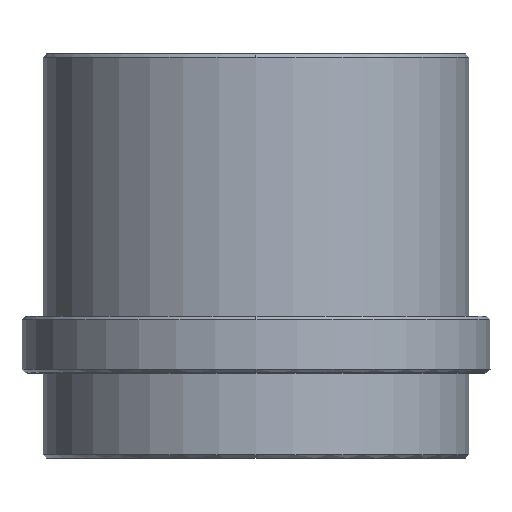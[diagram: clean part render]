
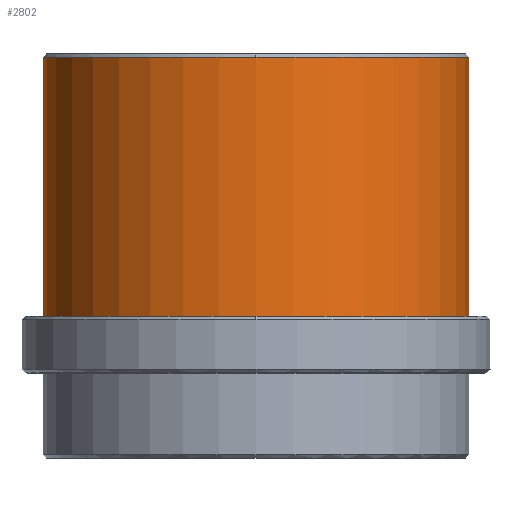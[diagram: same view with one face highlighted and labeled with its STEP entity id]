
A CAD part, front view. The second image highlights one B-rep face of the part: STEP entity #2802.
In plain terms, the highlighted cylindrical face has radius 30 mm (diameter 60 mm), a partial arc.
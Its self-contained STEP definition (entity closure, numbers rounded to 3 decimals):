
#2599=CARTESIAN_POINT('Vertex',(30.,0.,44.5)) ;
#2623=CARTESIAN_POINT('Vertex',(-30.,0.,44.5)) ;
#2647=CARTESIAN_POINT('Vertex',(0.,-30.,44.5)) ;
#2650=CARTESIAN_POINT('Axis2P3D Location',(0.,0.,44.5)) ;
#2667=CARTESIAN_POINT('Axis2P3D Location',(0.,0.,44.5)) ;
#2746=CARTESIAN_POINT('Line Origine',(30.,0.,-14.85)) ;
#2750=CARTESIAN_POINT('Vertex',(30.,0.,8.)) ;
#2769=CARTESIAN_POINT('Vertex',(-30.,0.,8.)) ;
#2772=CARTESIAN_POINT('Line Origine',(-30.,0.,-14.85)) ;
#2785=CARTESIAN_POINT('Axis2P3D Location',(0.,0.,-14.85)) ;
#2790=CARTESIAN_POINT('Axis2P3D Location',(0.,0.,8.)) ;
#2651=DIRECTION('Axis2P3D Direction',(0.,0.,-1.)) ;
#2668=DIRECTION('Axis2P3D Direction',(0.,0.,-1.)) ;
#2747=DIRECTION('Vector Direction',(0.,0.,1.)) ;
#2773=DIRECTION('Vector Direction',(0.,0.,1.)) ;
#2786=DIRECTION('Axis2P3D Direction',(0.,0.,1.)) ;
#2787=DIRECTION('Axis2P3D XDirection',(-1.,0.,0.)) ;
#2791=DIRECTION('Axis2P3D Direction',(0.,0.,1.)) ;
#2652=AXIS2_PLACEMENT_3D('Circle Axis2P3D',#2650,#2651,$) ;
#2669=AXIS2_PLACEMENT_3D('Circle Axis2P3D',#2667,#2668,$) ;
#2788=AXIS2_PLACEMENT_3D('Cylinder Axis2P3D',#2785,#2786,#2787) ;
#2792=AXIS2_PLACEMENT_3D('Circle Axis2P3D',#2790,#2791,$) ;
#2796=ORIENTED_EDGE('',*,*,#2776,.T.) ;
#2797=ORIENTED_EDGE('',*,*,#2794,.F.) ;
#2798=ORIENTED_EDGE('',*,*,#2752,.F.) ;
#2799=ORIENTED_EDGE('',*,*,#2671,.T.) ;
#2800=ORIENTED_EDGE('',*,*,#2654,.T.) ;
#2748=VECTOR('Line Direction',#2747,1.) ;
#2774=VECTOR('Line Direction',#2773,1.) ;
#2802=ADVANCED_FACE('MANIFOLD_SOLID_BREP #2384',(#2801),#2789,.T.) ;
#2653=CIRCLE('generated circle',#2652,30.) ;
#2670=CIRCLE('generated circle',#2669,30.) ;
#2793=CIRCLE('generated circle',#2792,30.) ;
#2789=CYLINDRICAL_SURFACE('generated cylinder',#2788,30.) ;
#2654=EDGE_CURVE('',#2648,#2624,#2653,.T.) ;
#2671=EDGE_CURVE('',#2600,#2648,#2670,.T.) ;
#2752=EDGE_CURVE('',#2600,#2751,#2749,.F.) ;
#2776=EDGE_CURVE('',#2624,#2770,#2775,.F.) ;
#2794=EDGE_CURVE('',#2751,#2770,#2793,.F.) ;
#2795=EDGE_LOOP('',(#2796,#2797,#2798,#2799,#2800)) ;
#2801=FACE_OUTER_BOUND('',#2795,.T.) ;
#2749=LINE('Line',#2746,#2748) ;
#2775=LINE('Line',#2772,#2774) ;
#2600=VERTEX_POINT('',#2599) ;
#2624=VERTEX_POINT('',#2623) ;
#2648=VERTEX_POINT('',#2647) ;
#2751=VERTEX_POINT('',#2750) ;
#2770=VERTEX_POINT('',#2769) ;
